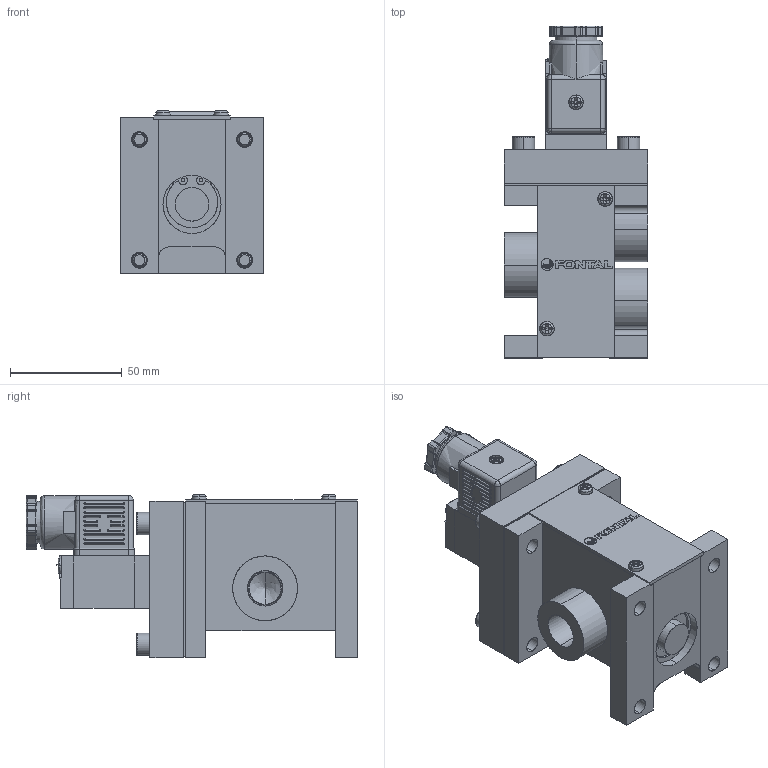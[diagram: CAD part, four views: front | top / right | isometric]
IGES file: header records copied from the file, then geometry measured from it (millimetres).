
Start section: SolidWorks IGES file using analytic representation for surfaces
Global section: file name: D:\Custom\3D繪製\PM\PM10\PMS2310#-03-#C#.IGS,1; native system: 5HSolidWorks 2014; preprocessor: SolidWorks 2014; author: Chieh_Lu; date: 151215.220522; units: millimetre
Bounding box: 64 x 148.35 x 73.05 mm (x, y, z)
Surface area: 86186.5 mm2 (no closed solid volume)
Topology: 0 solids, 0 shells, 975 faces, 9668 edges, 9518 vertices
Faces by surface type: revolution 519, bspline 456
